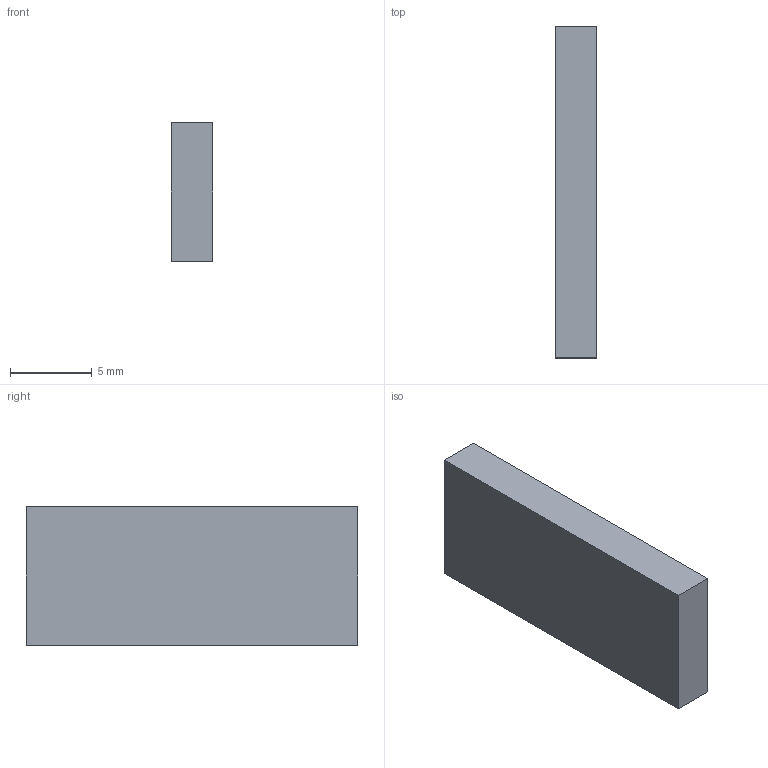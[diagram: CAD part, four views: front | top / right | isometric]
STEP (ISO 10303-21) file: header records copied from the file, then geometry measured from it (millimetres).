
FILE_DESCRIPTION(('Through-hole socket strip 1x8, 2.54 mm pitch -- body envelope 8.50 mm tall (2.54 mm socket strip, mating height (ICD-EEG-006 section 4))'),'2;1');
FILE_NAME('PinSocket_1x08_P2.54mm_Vertical','2026-09-08T00:00:00',('TI One Voice research programme'),(''),'EEG-CAR-01 step_write.py','','CC BY-SA 4.0');
FILE_SCHEMA(('AUTOMOTIVE_DESIGN { 1 0 10303 214 1 1 1 1 }'));
Length unit declared in the file: millimetre
Products named in the file (1): PinSocket_1x08_P2.54mm_Vertical
Bounding box: 2.54 x 20.32 x 8.5 mm (x, y, z)
Volume: 438.7 mm3; surface area: 491.8 mm2
Topology: 1 solids, 1 shells, 6 faces, 12 edges, 8 vertices
Faces by surface type: plane 6
Entity records: 67 total; most frequent: DIRECTION 14, CARTESIAN_POINT 9, AXIS2_PLACEMENT_3D 7, POLY_LOOP 6, FACE_OUTER_BOUND 6, PLANE 6, FACE_SURFACE 6, UNCERTAINTY_MEASURE_WITH_UNIT 1
